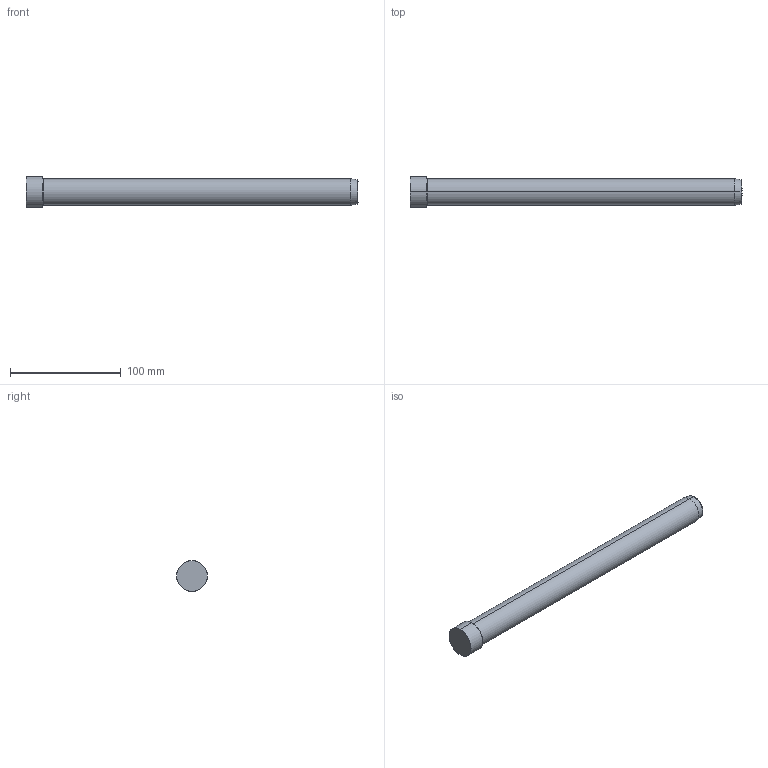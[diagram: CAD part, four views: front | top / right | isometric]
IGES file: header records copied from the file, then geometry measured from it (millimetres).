
Start section: SolidWorks IGES FILE using analytic representation for surfaces
Global section: file name: D:\zzzzz\Delta\D01 D\24\D01 D - 24x300.IGS; native system: SolidWorks 2004 by SolidWorks Corporation; preprocessor: Version 5.3; author: Hkn; date: 080327.145455; units: millimetre
Bounding box: 300 x 28 x 28 mm (x, y, z)
Surface area: 23948.9 mm2 (no closed solid volume)
Topology: 0 solids, 0 shells, 14 faces, 296 edges, 296 vertices
Faces by surface type: revolution 8, bspline 6
